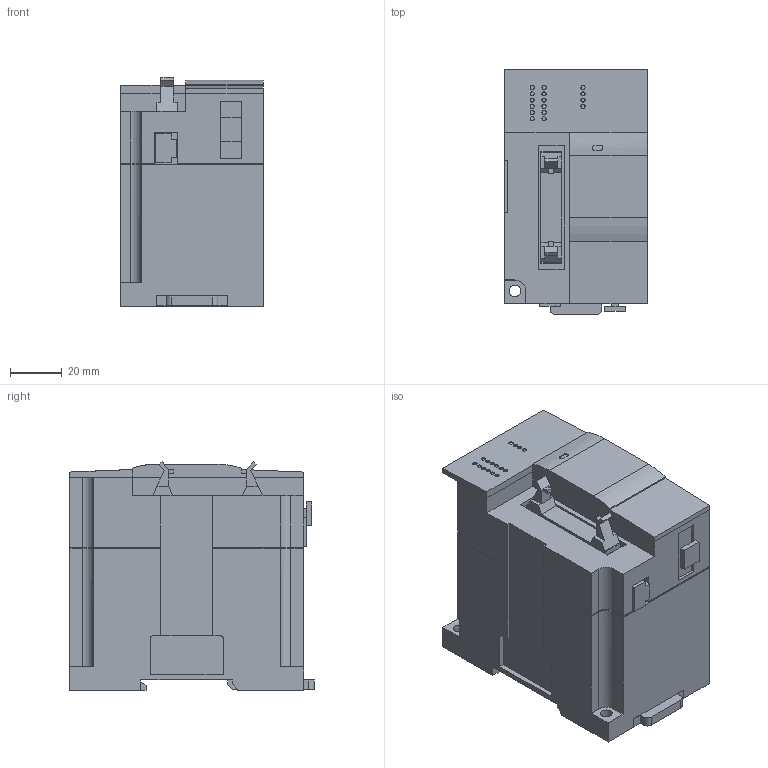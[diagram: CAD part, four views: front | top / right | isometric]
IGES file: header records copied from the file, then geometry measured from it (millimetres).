
Global section: file name: V:\FX3U\FX3U-20SSC-H\fx3u-20ssc-h.igs; preprocessor: I-DEAS 3D IGES Translator 15; date: 20140626.152545; units: millimetre
Bounding box: 55 x 94 x 88 mm (x, y, z)
Volume: 382446.1 mm3; surface area: 46906.1 mm2
Topology: 4 solids, 4 shells, 249 faces, 670 edges, 455 vertices
Faces by surface type: bspline 249
